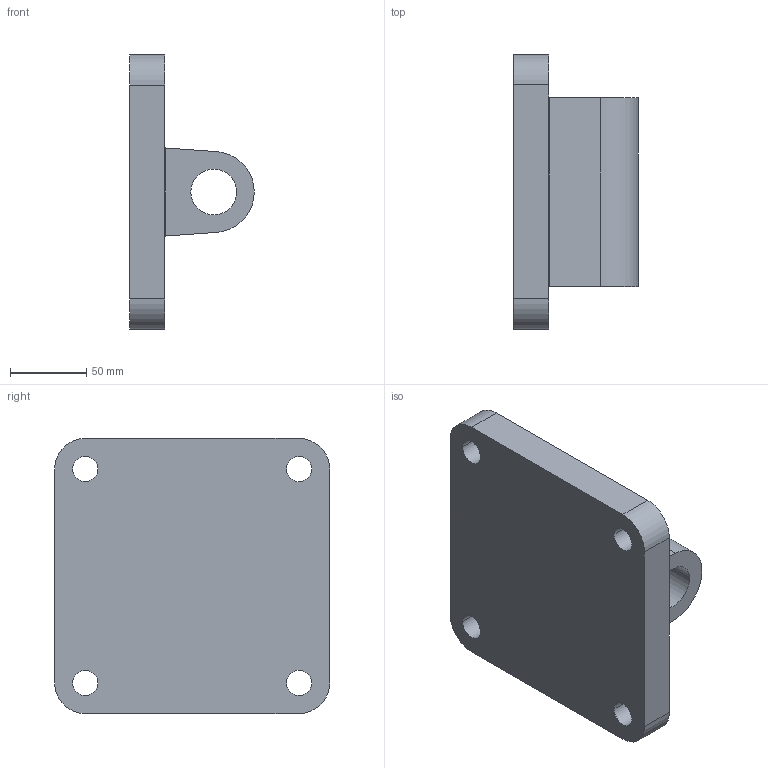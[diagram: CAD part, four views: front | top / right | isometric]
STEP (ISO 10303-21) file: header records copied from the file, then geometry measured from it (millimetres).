
FILE_DESCRIPTION(('CATIA V5 STEP Exchange'),'2;1');
FILE_NAME('D:\stp file for catalog\BAST-CA\CA 160.stp','2018-06-13T06:03:58+00:00',('none'),('none'),'CATIA Version 5-6 Release 2016','CATIA V5 STEP AP203','none');
FILE_SCHEMA(('CONFIG_CONTROL_DESIGN'));
Length unit declared in the file: millimetre
Products named in the file (1): PNC-CA 160-01
Bounding box: 81.5 x 180.2 x 180 mm (x, y, z)
Volume: 985722.1 mm3; surface area: 110077.1 mm2
Topology: 1 solids, 1 shells, 455 faces, 1275 edges, 850 vertices
Faces by surface type: plane 436, cylinder 19
Entity records: 13891 total; most frequent: ORIENTED_EDGE 2550, CARTESIAN_POINT 2510, DIRECTION 1971, EDGE_CURVE 1275, VECTOR 1237, LINE 1237, VERTEX_POINT 850, EDGE_LOOP 493
